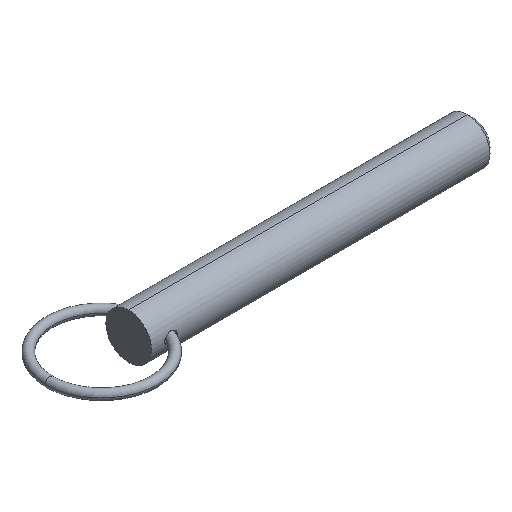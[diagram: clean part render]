
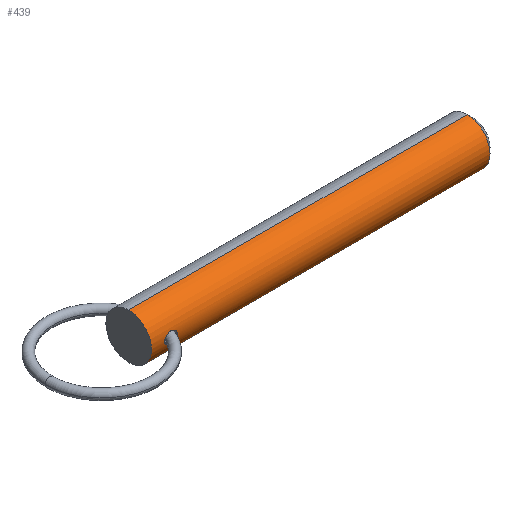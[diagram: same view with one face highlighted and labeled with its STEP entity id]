
A CAD part, isometric view. The second image highlights one B-rep face of the part: STEP entity #439.
In plain terms, the highlighted cylindrical face has radius 5.555 mm (diameter 11.11 mm), a partial arc.
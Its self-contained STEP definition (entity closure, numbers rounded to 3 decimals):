
#21 = CARTESIAN_POINT ( 'NONE',  ( 0., 0., 0. ) ) ;
#37 = CARTESIAN_POINT ( 'NONE',  ( 3.256, -5.555, -0.096 ) ) ;
#42 = ORIENTED_EDGE ( 'NONE', *, *, #815, .T. ) ;
#53 = CARTESIAN_POINT ( 'NONE',  ( 4.932, -5.378, 1.391 ) ) ;
#62 = CARTESIAN_POINT ( 'NONE',  ( 5.219, -5.385, 1.362 ) ) ;
#63 = CARTESIAN_POINT ( 'NONE',  ( 82.731, 0., 5.555 ) ) ;
#66 = CARTESIAN_POINT ( 'NONE',  ( 6.34, -5.552, 0.193 ) ) ;
#71 = CYLINDRICAL_SURFACE ( 'NONE', #325, 5.555 ) ;
#83 = CARTESIAN_POINT ( 'NONE',  ( 0., 0., -5.555 ) ) ;
#87 = LINE ( 'NONE', #704, #831 ) ;
#96 = CARTESIAN_POINT ( 'NONE',  ( 5.587, -5.413, -1.25 ) ) ;
#106 = CARTESIAN_POINT ( 'NONE',  ( 4.089, -5.424, -1.202 ) ) ;
#118 = VERTEX_POINT ( 'NONE', #760 ) ;
#161 = EDGE_CURVE ( 'NONE', #389, #118, #87, .T. ) ;
#168 = CARTESIAN_POINT ( 'NONE',  ( 3.356, -5.536, -0.468 ) ) ;
#187 = EDGE_LOOP ( 'NONE', ( #307, #203, #644, #313 ) ) ;
#190 = EDGE_CURVE ( 'NONE', #462, #389, #790, .T. ) ;
#194 = CARTESIAN_POINT ( 'NONE',  ( 6.04, -5.483, 0.898 ) ) ;
#203 = ORIENTED_EDGE ( 'NONE', *, *, #190, .T. ) ;
#209 = CARTESIAN_POINT ( 'NONE',  ( 0., 0., 5.555 ) ) ;
#212 = AXIS2_PLACEMENT_3D ( 'NONE', #286, #489, #498 ) ;
#217 = EDGE_CURVE ( 'NONE', #462, #328, #358, .T. ) ;
#229 = CARTESIAN_POINT ( 'NONE',  ( 6.194, -5.518, -0.65 ) ) ;
#237 = CARTESIAN_POINT ( 'NONE',  ( 5.313, -5.391, -1.341 ) ) ;
#243 = CARTESIAN_POINT ( 'NONE',  ( 6.35, -5.555, -0.194 ) ) ;
#250 = CARTESIAN_POINT ( 'NONE',  ( 5.028, -5.379, 1.387 ) ) ;
#256 = CARTESIAN_POINT ( 'NONE',  ( 5.586, -5.413, 1.25 ) ) ;
#267 = EDGE_LOOP ( 'NONE', ( #42, #608 ) ) ;
#268 = CARTESIAN_POINT ( 'NONE',  ( 4.453, -5.392, 1.339 ) ) ;
#275 = CARTESIAN_POINT ( 'NONE',  ( 6.35, -5.555, 0. ) ) ;
#286 = CARTESIAN_POINT ( 'NONE',  ( 82.731, 0., 0. ) ) ;
#295 = CARTESIAN_POINT ( 'NONE',  ( 4.641, -5.381, -1.379 ) ) ;
#298 = CARTESIAN_POINT ( 'NONE',  ( 5.758, -5.436, -1.152 ) ) ;
#301 = CARTESIAN_POINT ( 'NONE',  ( 3.256, -5.555, 0. ) ) ;
#307 = ORIENTED_EDGE ( 'NONE', *, *, #217, .F. ) ;
#313 = ORIENTED_EDGE ( 'NONE', *, *, #411, .F. ) ;
#316 = CARTESIAN_POINT ( 'NONE',  ( 5.757, -5.436, 1.153 ) ) ;
#321 = AXIS2_PLACEMENT_3D ( 'NONE', #818, #342, #694 ) ;
#325 = AXIS2_PLACEMENT_3D ( 'NONE', #21, #562, #618 ) ;
#328 = VERTEX_POINT ( 'NONE', #63 ) ;
#331 = CARTESIAN_POINT ( 'NONE',  ( 3.256, -5.555, 0.096 ) ) ;
#335 = CARTESIAN_POINT ( 'NONE',  ( 3.357, -5.536, 0.47 ) ) ;
#342 = DIRECTION ( 'NONE',  ( 1., 0., 0. ) ) ;
#358 = LINE ( 'NONE', #573, #821 ) ;
#361 = CARTESIAN_POINT ( 'NONE',  ( 5.027, -5.379, -1.387 ) ) ;
#382 = CARTESIAN_POINT ( 'NONE',  ( 3.627, -5.488, 0.87 ) ) ;
#389 = VERTEX_POINT ( 'NONE', #83 ) ;
#390 = CARTESIAN_POINT ( 'NONE',  ( 5.314, -5.391, 1.34 ) ) ;
#395 = CARTESIAN_POINT ( 'NONE',  ( 4.646, -5.381, 1.379 ) ) ;
#402 = CARTESIAN_POINT ( 'NONE',  ( 6.35, -5.555, 0.097 ) ) ;
#411 = EDGE_CURVE ( 'NONE', #328, #118, #750, .T. ) ;
#426 = B_SPLINE_CURVE_WITH_KNOTS ( 'NONE', 3,
 ( #594, #331, #801, #717, #335, #875, #382, #805, #657, #268, #395, #53, #250, #62, #390, #256, #316, #194, #870, #457, #864, #66, #402, #789 ),
 .UNSPECIFIED., .F., .F.,
 ( 4, 2, 2, 2, 2, 2, 2, 2, 2, 2, 2, 4 ),
 ( 0.001, 0.001, 0.001, 0.002, 0.002, 0.003, 0.003, 0.003, 0.004, 0.005, 0.005, 0.005 ),
 .UNSPECIFIED. ) ;
#434 = CARTESIAN_POINT ( 'NONE',  ( 6.035, -5.484, -0.889 ) ) ;
#439 = ADVANCED_FACE ( 'NONE', ( #628, #696 ), #71, .T. ) ;
#442 = DIRECTION ( 'NONE',  ( 1., 0., 0. ) ) ;
#450 = CARTESIAN_POINT ( 'NONE',  ( 3.256, -5.555, 0. ) ) ;
#457 = CARTESIAN_POINT ( 'NONE',  ( 6.271, -5.535, 0.475 ) ) ;
#462 = VERTEX_POINT ( 'NONE', #209 ) ;
#474 = DIRECTION ( 'NONE',  ( 1., 0., 0. ) ) ;
#489 = DIRECTION ( 'NONE',  ( 1., 0., 0. ) ) ;
#498 = DIRECTION ( 'NONE',  ( 0., 0., -1. ) ) ;
#512 = CARTESIAN_POINT ( 'NONE',  ( 5.218, -5.385, -1.362 ) ) ;
#518 = CARTESIAN_POINT ( 'NONE',  ( 6.147, -5.507, -0.733 ) ) ;
#524 = B_SPLINE_CURVE_WITH_KNOTS ( 'NONE', 3,
 ( #568, #243, #835, #229, #518, #434, #703, #298, #96, #237, #512, #361, #636, #295, #576, #106, #838, #781, #772, #168, #706, #645, #37, #301 ),
 .UNSPECIFIED., .F., .F.,
 ( 4, 2, 2, 2, 2, 2, 2, 2, 2, 2, 2, 4 ),
 ( 0.005, 0.006, 0.006, 0.006, 0.007, 0.007, 0.008, 0.008, 0.009, 0.009, 0.01, 0.01 ),
 .UNSPECIFIED. ) ;
#545 = VERTEX_POINT ( 'NONE', #275 ) ;
#562 = DIRECTION ( 'NONE',  ( 1., 0., 0. ) ) ;
#568 = CARTESIAN_POINT ( 'NONE',  ( 6.35, -5.555, 0. ) ) ;
#573 = CARTESIAN_POINT ( 'NONE',  ( 0., 0., 5.555 ) ) ;
#576 = CARTESIAN_POINT ( 'NONE',  ( 4.451, -5.392, -1.339 ) ) ;
#594 = CARTESIAN_POINT ( 'NONE',  ( 3.256, -5.555, 0. ) ) ;
#608 = ORIENTED_EDGE ( 'NONE', *, *, #685, .T. ) ;
#618 = DIRECTION ( 'NONE',  ( 0., 0., -1. ) ) ;
#628 = FACE_OUTER_BOUND ( 'NONE', #187, .T. ) ;
#636 = CARTESIAN_POINT ( 'NONE',  ( 4.931, -5.378, -1.391 ) ) ;
#644 = ORIENTED_EDGE ( 'NONE', *, *, #161, .T. ) ;
#645 = CARTESIAN_POINT ( 'NONE',  ( 3.269, -5.552, -0.193 ) ) ;
#657 = CARTESIAN_POINT ( 'NONE',  ( 4.095, -5.423, 1.204 ) ) ;
#685 = EDGE_CURVE ( 'NONE', #545, #731, #524, .T. ) ;
#694 = DIRECTION ( 'NONE',  ( 0., 0., -1. ) ) ;
#696 = FACE_BOUND ( 'NONE', #267, .T. ) ;
#703 = CARTESIAN_POINT ( 'NONE',  ( 5.97, -5.472, -0.961 ) ) ;
#704 = CARTESIAN_POINT ( 'NONE',  ( 0., 0., -5.555 ) ) ;
#706 = CARTESIAN_POINT ( 'NONE',  ( 3.319, -5.543, -0.379 ) ) ;
#717 = CARTESIAN_POINT ( 'NONE',  ( 3.32, -5.543, 0.38 ) ) ;
#731 = VERTEX_POINT ( 'NONE', #450 ) ;
#750 = CIRCLE ( 'NONE', #212, 5.555 ) ;
#760 = CARTESIAN_POINT ( 'NONE',  ( 82.731, 0., -5.555 ) ) ;
#772 = CARTESIAN_POINT ( 'NONE',  ( 3.496, -5.51, -0.722 ) ) ;
#781 = CARTESIAN_POINT ( 'NONE',  ( 3.623, -5.489, -0.866 ) ) ;
#789 = CARTESIAN_POINT ( 'NONE',  ( 6.35, -5.555, 0. ) ) ;
#790 = CIRCLE ( 'NONE', #321, 5.555 ) ;
#801 = CARTESIAN_POINT ( 'NONE',  ( 3.269, -5.552, 0.194 ) ) ;
#805 = CARTESIAN_POINT ( 'NONE',  ( 3.924, -5.445, 1.109 ) ) ;
#815 = EDGE_CURVE ( 'NONE', #731, #545, #426, .T. ) ;
#818 = CARTESIAN_POINT ( 'NONE',  ( 0., 0., 0. ) ) ;
#821 = VECTOR ( 'NONE', #442, 1000. ) ;
#831 = VECTOR ( 'NONE', #474, 1000. ) ;
#835 = CARTESIAN_POINT ( 'NONE',  ( 6.31, -5.544, -0.386 ) ) ;
#838 = CARTESIAN_POINT ( 'NONE',  ( 3.923, -5.445, -1.108 ) ) ;
#864 = CARTESIAN_POINT ( 'NONE',  ( 6.301, -5.543, 0.381 ) ) ;
#870 = CARTESIAN_POINT ( 'NONE',  ( 6.156, -5.509, 0.738 ) ) ;
#875 = CARTESIAN_POINT ( 'NONE',  ( 3.497, -5.51, 0.723 ) ) ;
